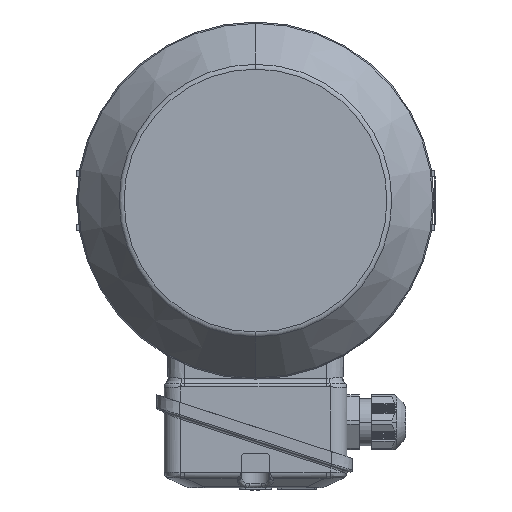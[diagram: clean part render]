
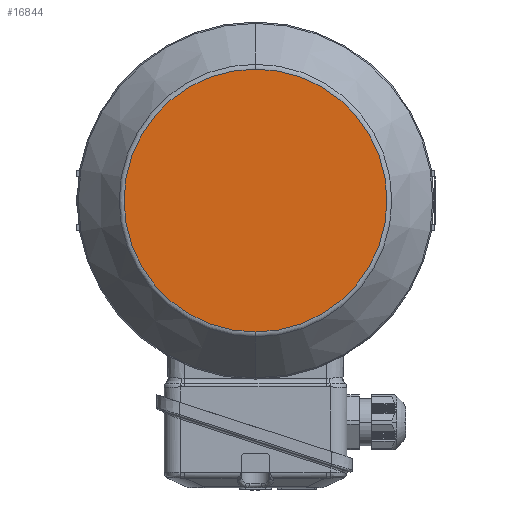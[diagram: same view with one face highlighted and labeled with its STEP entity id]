
A CAD part, left-side view. The second image highlights one B-rep face of the part: STEP entity #16844.
In plain terms, the highlighted planar face has unit normal (-1, 0, 0).
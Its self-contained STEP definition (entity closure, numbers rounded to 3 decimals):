
#8158 = CARTESIAN_POINT ( 'NONE',  ( -164., 0., 0. ) ) ;
#8695 = DIRECTION ( 'NONE',  ( 1., 0., 0. ) ) ;
#10447 = CARTESIAN_POINT ( 'NONE',  ( -164., 0., -64.037 ) ) ;
#13473 = DIRECTION ( 'NONE',  ( 0., 1., 0. ) ) ;
#13562 = CARTESIAN_POINT ( 'NONE',  ( -164., 0., -64.037 ) ) ;
#15525 = ORIENTED_EDGE ( 'NONE', *, *, #39564, .F. ) ;
#16395 = AXIS2_PLACEMENT_3D ( 'NONE', #22790, #25795, #19459 ) ;
#16545 = ORIENTED_EDGE ( 'NONE', *, *, #17191, .F. ) ;
#16844 = ADVANCED_FACE ( 'NONE', ( #24669 ), #29266, .T. ) ;
#16898 = EDGE_LOOP ( 'NONE', ( #15525, #16545 ) ) ;
#17191 = EDGE_CURVE ( 'NONE', #23004, #30533, #26064, .T. ) ;
#19459 = DIRECTION ( 'NONE',  ( 0., 0., -1. ) ) ;
#22790 = CARTESIAN_POINT ( 'NONE',  ( -164., 0., 0. ) ) ;
#23004 = VERTEX_POINT ( 'NONE', #28744 ) ;
#24669 = FACE_OUTER_BOUND ( 'NONE', #16898, .T. ) ;
#24879 = AXIS2_PLACEMENT_3D ( 'NONE', #8158, #8695, #30283 ) ;
#25011 = CIRCLE ( 'NONE', #24879, 64.037 ) ;
#25307 = AXIS2_PLACEMENT_3D ( 'NONE', #10447, #32413, #13473 ) ;
#25795 = DIRECTION ( 'NONE',  ( 1., 0., 0. ) ) ;
#26064 = CIRCLE ( 'NONE', #16395, 64.037 ) ;
#28744 = CARTESIAN_POINT ( 'NONE',  ( -164., 0., 64.037 ) ) ;
#29266 = PLANE ( 'NONE',  #25307 ) ;
#30283 = DIRECTION ( 'NONE',  ( 0., 0., -1. ) ) ;
#30533 = VERTEX_POINT ( 'NONE', #13562 ) ;
#32413 = DIRECTION ( 'NONE',  ( -1., 0., 0. ) ) ;
#39564 = EDGE_CURVE ( 'NONE', #30533, #23004, #25011, .T. ) ;
